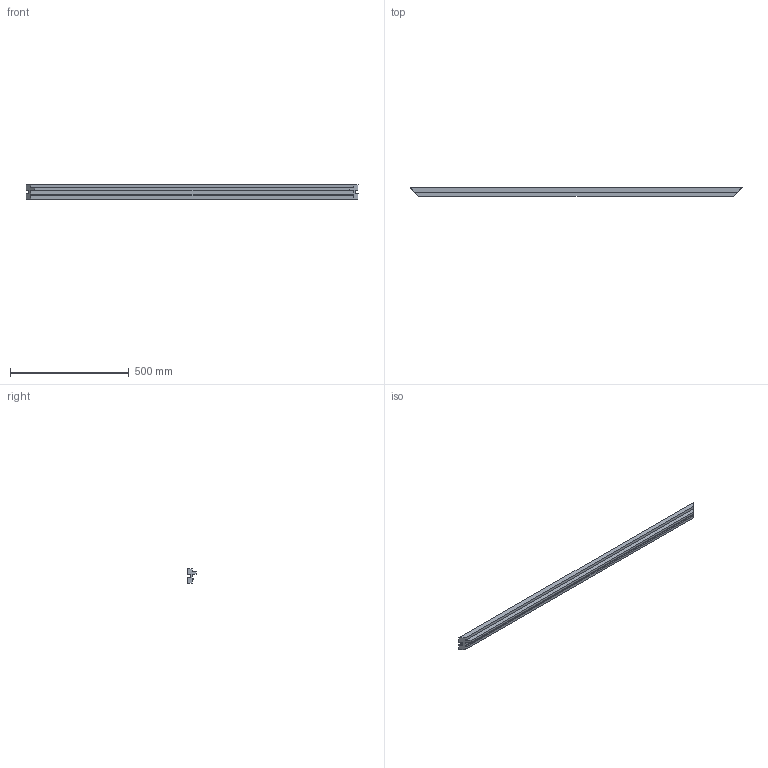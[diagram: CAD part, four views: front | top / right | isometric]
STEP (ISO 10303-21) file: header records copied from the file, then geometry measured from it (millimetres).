
FILE_DESCRIPTION(/* description */ (''),/* implementation_level */ '2;1');
FILE_NAME(/* name */ 'Pos137-PV-SCHERM PROFIEL 60X37-Aluminium-4st',/* time_stamp */ '2024-08-06T11:49:43+02:00',/* author */ (''),/* organization */ (''),/* preprocessor_version */ 'ST-DEVELOPER v16.5',/* originating_system */ 'HiCAD 2024 2901.2 Build 361',/* authorisation */ '');
FILE_SCHEMA (('AUTOMOTIVE_DESIGN { 1 0 10303 214 1 1 1 1 }'));
Length unit declared in the file: millimetre
Products named in the file (1): Pos137-PV-SCHERM PROFIEL 60X37-Aluminium-4st
Bounding box: 1400 x 37 x 60 mm (x, y, z)
Volume: 1718513.3 mm3; surface area: 333751.3 mm2
Topology: 1 solids, 1 shells, 33 faces, 93 edges, 62 vertices
Faces by surface type: plane 29, cylinder 4
Entity records: 2003 total; most frequent: CARTESIAN_POINT 188, PRESENTATION_STYLE_ASSIGNMENT 187, COLOUR_RGB 187, DRAUGHTING_PRE_DEFINED_CURVE_FONT 186, CURVE_STYLE 186, OVER_RIDING_STYLED_ITEM 186, ORIENTED_EDGE 186, DIRECTION 167
